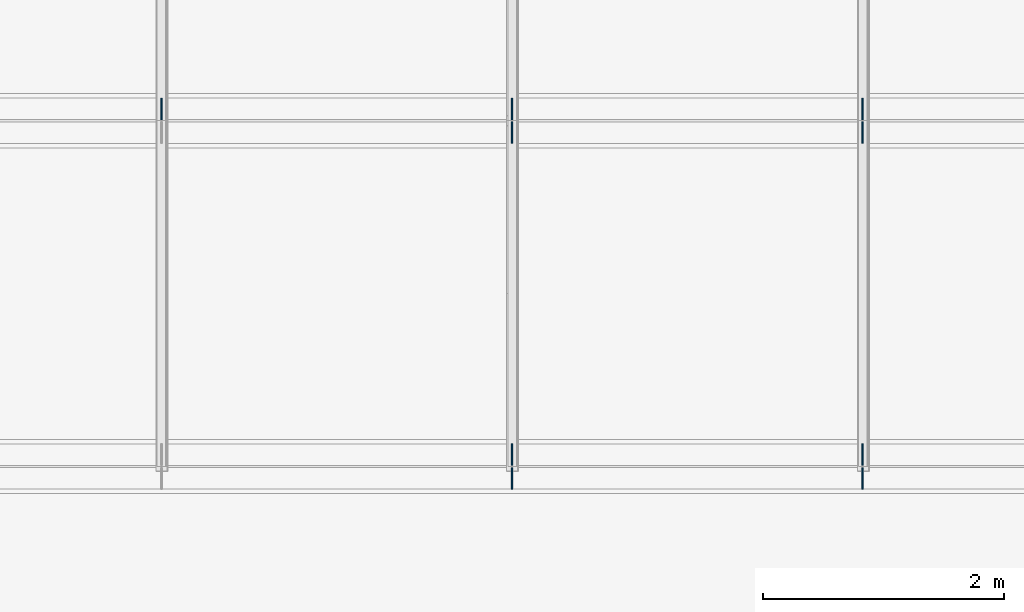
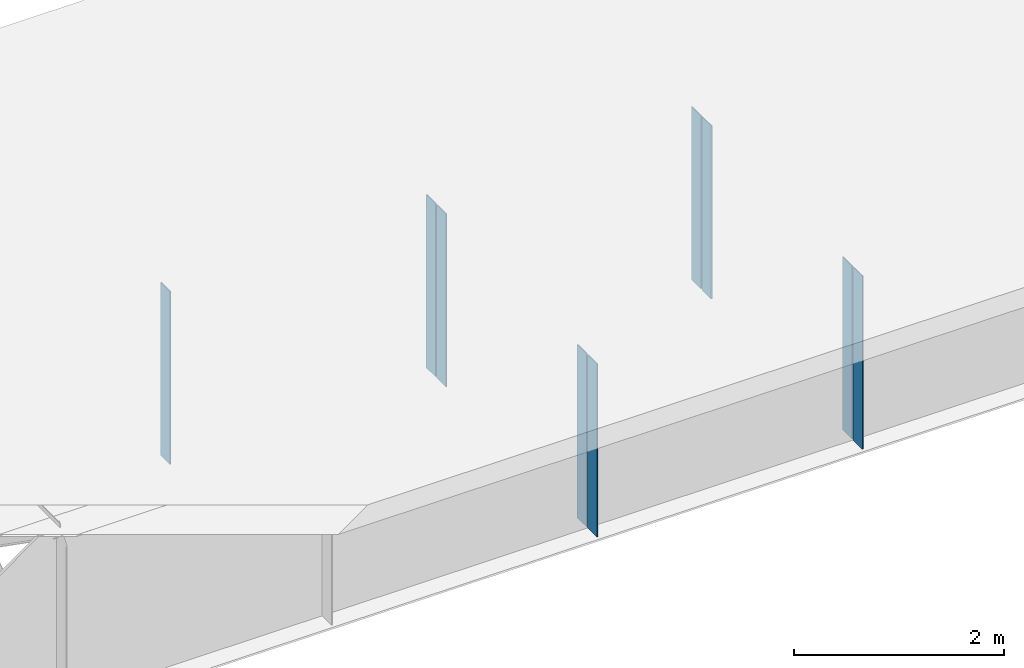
# One storey, part 8 of 11: 9 plates.
"""IFC4 building model written with IfcOpenShell, lengths in metres."""

from ifc_helpers import new_model, si_unit, frame, origin, origin_with_axes, origin_2d_with_axis, place, context, subcontext, project, spatial, rectangle, extrude, element, save


model = new_model("IFC4")

# Units and contexts
model_context = context("Model", 3, precision=1e-05, world=origin())
body_context = subcontext(model_context, "Body", "Model", "MODEL_VIEW")
ifc_project = project(units=[si_unit("LENGTHUNIT", "METRE"), si_unit("AREAUNIT", "SQUARE_METRE"), si_unit("VOLUMEUNIT", "CUBIC_METRE"), si_unit("PLANEANGLEUNIT", "RADIAN")], contexts=[model_context])

# Site, building, storey
site_placement = place(None, origin_with_axes())
site = spatial("IfcSite", under=ifc_project, at=site_placement, Name="Default Site")
building_placement = place(site_placement, origin_with_axes())
building = spatial("IfcBuilding", under=site, at=building_placement, Name="Bridge Structure")
storey_placement = place(building_placement, origin_with_axes())
storey = spatial("IfcBuildingStorey", under=building, at=storey_placement, Name="Superstructure")

# Plates
for number, where, z_axis, x_axis, name in (
    (1, (20.412, -2.7767500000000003, -1.005), (0.0, 0.0, 1.0), (1.0, 0.0, 0.0), "Intermediate Stiffener 1"),
    (2, (20.412, -2.97325, -1.005), (0.0, 0.0, 1.0), (1.0, 0.0, 0.0), "Intermediate Stiffener 1"),
    (3, (23.328, -2.7767500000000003, -1.005), (0.0, 0.0, 1.0), (1.0, 0.0, 0.0), "Intermediate Stiffener 1"),
    (4, (23.328, -2.97325, -1.005), (0.0, 0.0, 1.0), (1.0, 0.0, 0.0), "Intermediate Stiffener 1"),
    (5, (17.496, 0.09825, -1.005), (0.0, 0.0, 1.0), (1.0, 0.0, 0.0), "Intermediate Stiffener 2"),
    (6, (20.412, 0.09825, -1.005), (0.0, 0.0, 1.0), (1.0, 0.0, 0.0), "Intermediate Stiffener 2"),
    (7, (20.412, -0.09825, -1.005), (0.0, 0.0, 1.0), (1.0, 0.0, 0.0), "Intermediate Stiffener 2"),
    (8, (23.328, 0.09825, -1.005), (0.0, 0.0, 1.0), (1.0, 0.0, 0.0), "Intermediate Stiffener 2"),
    (9, (23.328, -0.09825, -1.005), (0.0, 0.0, 1.0), (1.0, 0.0, 0.0), "Intermediate Stiffener 2"),
):
    element("IfcPlate", number, at=place(storey_placement, frame(where, z_axis=z_axis, x_axis=x_axis)), inside=storey, Name=name, context=body_context, shape_type="SweptSolid", body=[
        extrude(rectangle(XDim=0.012, YDim=0.1785, at=origin_2d_with_axis()), origin_with_axes(), (0.0, 0.0, 1.0), 2.01),
    ])

save(model, "model.ifc")
